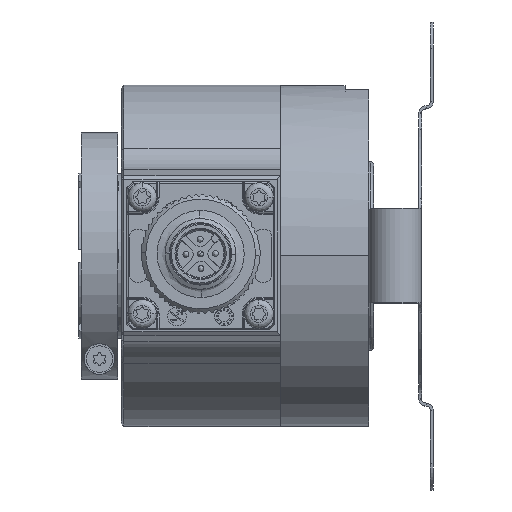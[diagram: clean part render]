
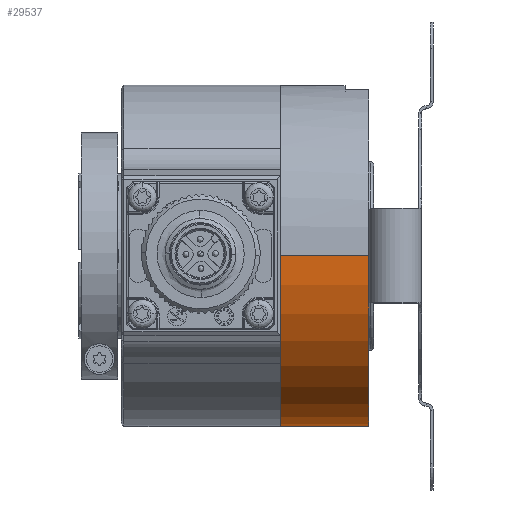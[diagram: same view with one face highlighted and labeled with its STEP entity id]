
A CAD part, top view. The second image highlights one B-rep face of the part: STEP entity #29537.
In plain terms, the highlighted cylindrical face has radius 29 mm (diameter 58 mm), a partial arc.
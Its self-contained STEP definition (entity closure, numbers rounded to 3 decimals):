
#1242 = LINE ( 'NONE', #17355, #30673 ) ;
#2349 = DIRECTION ( 'NONE',  ( 0., 0., 1. ) ) ;
#6787 = VERTEX_POINT ( 'NONE', #10748 ) ;
#9277 = DIRECTION ( 'NONE',  ( -1., 0., 0. ) ) ;
#10748 = CARTESIAN_POINT ( 'NONE',  ( 15., 0., -29. ) ) ;
#11400 = CARTESIAN_POINT ( 'NONE',  ( 0., 0., -29. ) ) ;
#11412 = DIRECTION ( 'NONE',  ( -1., 0., 0. ) ) ;
#15637 = EDGE_CURVE ( 'NONE', #6787, #18727, #1242, .T. ) ;
#16481 = CYLINDRICAL_SURFACE ( 'NONE', #26836, 29. ) ;
#17355 = CARTESIAN_POINT ( 'NONE',  ( -21.996, 0., -29. ) ) ;
#18269 = EDGE_CURVE ( 'NONE', #6787, #20928, #18834, .T. ) ;
#18727 = VERTEX_POINT ( 'NONE', #11400 ) ;
#18834 = CIRCLE ( 'NONE', #32596, 29. ) ;
#19425 = CARTESIAN_POINT ( 'NONE',  ( 0., 0., 0. ) ) ;
#20420 = CIRCLE ( 'NONE', #30702, 29. ) ;
#20928 = VERTEX_POINT ( 'NONE', #28359 ) ;
#21819 = CARTESIAN_POINT ( 'NONE',  ( 0., 0., 29. ) ) ;
#23051 = CARTESIAN_POINT ( 'NONE',  ( 15., 0., 0. ) ) ;
#24154 = ORIENTED_EDGE ( 'NONE', *, *, #18269, .T. ) ;
#25538 = ORIENTED_EDGE ( 'NONE', *, *, #44779, .T. ) ;
#26836 = AXIS2_PLACEMENT_3D ( 'NONE', #36428, #44487, #52826 ) ;
#28359 = CARTESIAN_POINT ( 'NONE',  ( 15., 0., 29. ) ) ;
#29537 = ADVANCED_FACE ( 'NONE', ( #49332 ), #16481, .T. ) ;
#30438 = ORIENTED_EDGE ( 'NONE', *, *, #15637, .F. ) ;
#30673 = VECTOR ( 'NONE', #9277, 1000. ) ;
#30702 = AXIS2_PLACEMENT_3D ( 'NONE', #19425, #47699, #51980 ) ;
#32154 = LINE ( 'NONE', #39423, #35086 ) ;
#32596 = AXIS2_PLACEMENT_3D ( 'NONE', #23051, #50764, #2349 ) ;
#33553 = EDGE_LOOP ( 'NONE', ( #30438, #24154, #25538, #46460 ) ) ;
#35086 = VECTOR ( 'NONE', #11412, 1000. ) ;
#36428 = CARTESIAN_POINT ( 'NONE',  ( -21.996, 0., 0. ) ) ;
#39423 = CARTESIAN_POINT ( 'NONE',  ( -21.996, 0., 29. ) ) ;
#44107 = EDGE_CURVE ( 'NONE', #18727, #45461, #20420, .T. ) ;
#44487 = DIRECTION ( 'NONE',  ( -1., 0., 0. ) ) ;
#44779 = EDGE_CURVE ( 'NONE', #20928, #45461, #32154, .T. ) ;
#45461 = VERTEX_POINT ( 'NONE', #21819 ) ;
#46460 = ORIENTED_EDGE ( 'NONE', *, *, #44107, .F. ) ;
#47699 = DIRECTION ( 'NONE',  ( -1., 0., 0. ) ) ;
#49332 = FACE_OUTER_BOUND ( 'NONE', #33553, .T. ) ;
#50764 = DIRECTION ( 'NONE',  ( -1., 0., 0. ) ) ;
#51980 = DIRECTION ( 'NONE',  ( 0., 0., 1. ) ) ;
#52826 = DIRECTION ( 'NONE',  ( 0., 0., 1. ) ) ;
